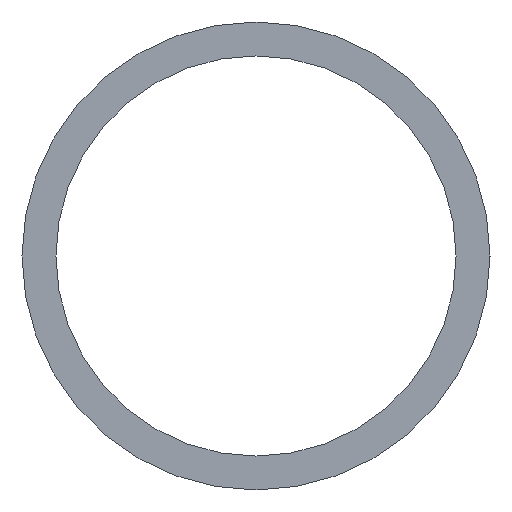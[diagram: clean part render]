
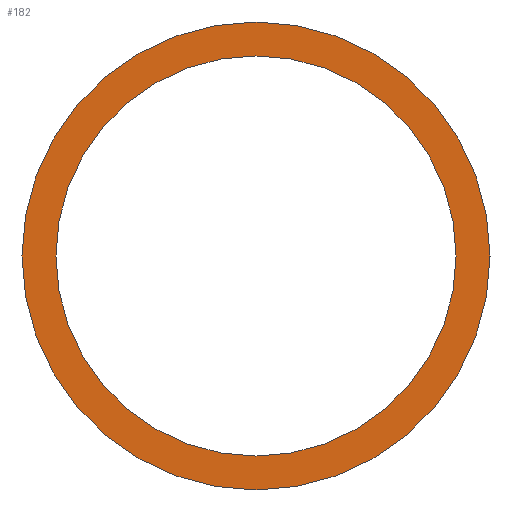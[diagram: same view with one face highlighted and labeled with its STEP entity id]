
A CAD part, left-side view. The second image highlights one B-rep face of the part: STEP entity #182.
In plain terms, the highlighted planar face has unit normal (-1, 0, 0).
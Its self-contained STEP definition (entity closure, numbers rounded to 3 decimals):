
#20 = DIRECTION ( 'NONE',  ( 1., 0., 0. ) ) ;
#21 = DIRECTION ( 'NONE',  ( -1., 0., 0. ) ) ;
#23 = EDGE_LOOP ( 'NONE', ( #44, #118 ) ) ;
#33 = EDGE_CURVE ( 'NONE', #106, #108, #209, .T. ) ;
#34 = EDGE_CURVE ( 'NONE', #56, #139, #60, .T. ) ;
#36 = AXIS2_PLACEMENT_3D ( 'NONE', #121, #21, #39 ) ;
#38 = DIRECTION ( 'NONE',  ( -1., 0., 0. ) ) ;
#39 = DIRECTION ( 'NONE',  ( 0., 0., 1. ) ) ;
#42 = AXIS2_PLACEMENT_3D ( 'NONE', #70, #87, #156 ) ;
#44 = ORIENTED_EDGE ( 'NONE', *, *, #46, .F. ) ;
#46 = EDGE_CURVE ( 'NONE', #139, #56, #113, .T. ) ;
#47 = CARTESIAN_POINT ( 'NONE',  ( 0., 0., 6.9 ) ) ;
#52 = CARTESIAN_POINT ( 'NONE',  ( 0., 0., -5.9 ) ) ;
#55 = AXIS2_PLACEMENT_3D ( 'NONE', #155, #38, #135 ) ;
#56 = VERTEX_POINT ( 'NONE', #52 ) ;
#60 = CIRCLE ( 'NONE', #36, 5.9 ) ;
#69 = DIRECTION ( 'NONE',  ( -1., 0., 0. ) ) ;
#70 = CARTESIAN_POINT ( 'NONE',  ( 0., 0., 0. ) ) ;
#79 = EDGE_LOOP ( 'NONE', ( #93, #195 ) ) ;
#87 = DIRECTION ( 'NONE',  ( -1., 0., 0. ) ) ;
#93 = ORIENTED_EDGE ( 'NONE', *, *, #179, .T. ) ;
#101 = CIRCLE ( 'NONE', #55, 6.9 ) ;
#103 = CARTESIAN_POINT ( 'NONE',  ( 0., 0., 5.9 ) ) ;
#106 = VERTEX_POINT ( 'NONE', #169 ) ;
#108 = VERTEX_POINT ( 'NONE', #47 ) ;
#113 = CIRCLE ( 'NONE', #159, 5.9 ) ;
#118 = ORIENTED_EDGE ( 'NONE', *, *, #34, .F. ) ;
#120 = DIRECTION ( 'NONE',  ( 0., 0., -1. ) ) ;
#121 = CARTESIAN_POINT ( 'NONE',  ( 0., 0., 0. ) ) ;
#135 = DIRECTION ( 'NONE',  ( 0., 0., 1. ) ) ;
#139 = VERTEX_POINT ( 'NONE', #103 ) ;
#140 = FACE_OUTER_BOUND ( 'NONE', #79, .T. ) ;
#155 = CARTESIAN_POINT ( 'NONE',  ( 0., 0., 0. ) ) ;
#156 = DIRECTION ( 'NONE',  ( 0., 0., 1. ) ) ;
#159 = AXIS2_PLACEMENT_3D ( 'NONE', #210, #69, #189 ) ;
#169 = CARTESIAN_POINT ( 'NONE',  ( 0., 0., -6.9 ) ) ;
#174 = CARTESIAN_POINT ( 'NONE',  ( 0., 5.9, 0. ) ) ;
#175 = PLANE ( 'NONE',  #184 ) ;
#179 = EDGE_CURVE ( 'NONE', #108, #106, #101, .T. ) ;
#182 = ADVANCED_FACE ( 'NONE', ( #188, #140 ), #175, .F. ) ;
#184 = AXIS2_PLACEMENT_3D ( 'NONE', #174, #20, #120 ) ;
#188 = FACE_BOUND ( 'NONE', #23, .T. ) ;
#189 = DIRECTION ( 'NONE',  ( 0., 0., 1. ) ) ;
#195 = ORIENTED_EDGE ( 'NONE', *, *, #33, .T. ) ;
#209 = CIRCLE ( 'NONE', #42, 6.9 ) ;
#210 = CARTESIAN_POINT ( 'NONE',  ( 0., 0., 0. ) ) ;
